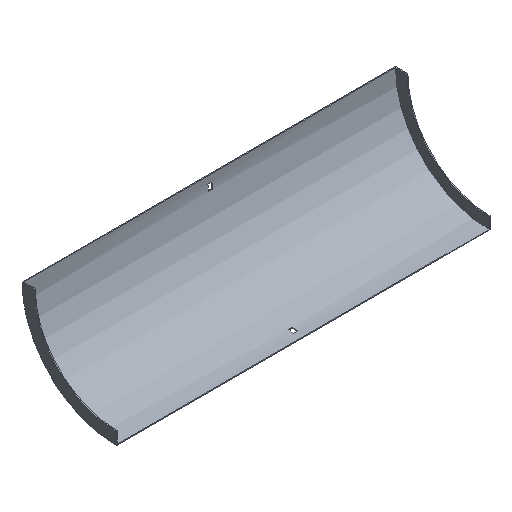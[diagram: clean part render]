
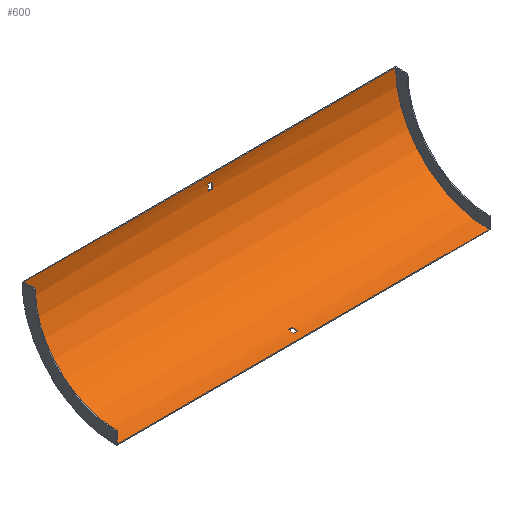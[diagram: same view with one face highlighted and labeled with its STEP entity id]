
A CAD part, isometric view. The second image highlights one B-rep face of the part: STEP entity #600.
In plain terms, the highlighted cylindrical face has radius 152 mm (diameter 304 mm), a partial arc.
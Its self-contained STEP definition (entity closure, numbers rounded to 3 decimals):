
#7 = AXIS2_PLACEMENT_3D ( 'NONE', #99, #285, #472 ) ;
#9 = CARTESIAN_POINT ( 'NONE',  ( -3.25, -141.5, -151.526 ) ) ;
#12 = CARTESIAN_POINT ( 'NONE',  ( 303.5, -141.5, -151.526 ) ) ;
#14 = VERTEX_POINT ( 'NONE', #495 ) ;
#22 = DIRECTION ( 'NONE',  ( 0., 0., 1. ) ) ;
#29 = VERTEX_POINT ( 'NONE', #108 ) ;
#34 = CARTESIAN_POINT ( 'NONE',  ( 303.5, -1.974, -12. ) ) ;
#44 = DIRECTION ( 'NONE',  ( 1., 0., 0. ) ) ;
#70 = CARTESIAN_POINT ( 'NONE',  ( 303.5, -2.958, -21. ) ) ;
#76 = FACE_BOUND ( 'NONE', #407, .T. ) ;
#79 = VERTEX_POINT ( 'NONE', #119 ) ;
#80 = FACE_BOUND ( 'NONE', #201, .T. ) ;
#85 = VERTEX_POINT ( 'NONE', #115 ) ;
#88 = LINE ( 'NONE', #557, #193 ) ;
#90 = LINE ( 'NONE', #34, #593 ) ;
#99 = CARTESIAN_POINT ( 'NONE',  ( -302., -153.5, 0. ) ) ;
#100 = VERTEX_POINT ( 'NONE', #255 ) ;
#102 = CARTESIAN_POINT ( 'NONE',  ( 302., -153.5, -152. ) ) ;
#108 = CARTESIAN_POINT ( 'NONE',  ( 302., -153.5, -152. ) ) ;
#109 = DIRECTION ( 'NONE',  ( 0., 0., 1. ) ) ;
#115 = CARTESIAN_POINT ( 'NONE',  ( -3.25, -132.5, -150.542 ) ) ;
#119 = CARTESIAN_POINT ( 'NONE',  ( 302., -1.5, 0. ) ) ;
#121 = VERTEX_POINT ( 'NONE', #167 ) ;
#126 = FACE_OUTER_BOUND ( 'NONE', #508, .T. ) ;
#130 = ORIENTED_EDGE ( 'NONE', *, *, #272, .F. ) ;
#136 = EDGE_CURVE ( 'NONE', #100, #249, #348, .T. ) ;
#140 = CIRCLE ( 'NONE', #218, 152. ) ;
#146 = AXIS2_PLACEMENT_3D ( 'NONE', #363, #322, #188 ) ;
#147 = VERTEX_POINT ( 'NONE', #423 ) ;
#150 = DIRECTION ( 'NONE',  ( 1., 0., 0. ) ) ;
#164 = EDGE_CURVE ( 'NONE', #29, #14, #243, .T. ) ;
#167 = CARTESIAN_POINT ( 'NONE',  ( -302., -1.5, 0. ) ) ;
#171 = ORIENTED_EDGE ( 'NONE', *, *, #428, .T. ) ;
#176 = ORIENTED_EDGE ( 'NONE', *, *, #205, .T. ) ;
#188 = DIRECTION ( 'NONE',  ( 0., 0., -1. ) ) ;
#190 = AXIS2_PLACEMENT_3D ( 'NONE', #599, #44, #603 ) ;
#193 = VECTOR ( 'NONE', #460, 1000. ) ;
#201 = EDGE_LOOP ( 'NONE', ( #271, #286, #171, #516 ) ) ;
#205 = EDGE_CURVE ( 'NONE', #29, #79, #140, .T. ) ;
#217 = ORIENTED_EDGE ( 'NONE', *, *, #420, .F. ) ;
#218 = AXIS2_PLACEMENT_3D ( 'NONE', #241, #150, #109 ) ;
#222 = VECTOR ( 'NONE', #355, 1000. ) ;
#241 = CARTESIAN_POINT ( 'NONE',  ( 302., -153.5, 0. ) ) ;
#243 = LINE ( 'NONE', #102, #477 ) ;
#245 = VERTEX_POINT ( 'NONE', #564 ) ;
#249 = VERTEX_POINT ( 'NONE', #9 ) ;
#255 = CARTESIAN_POINT ( 'NONE',  ( 3.25, -141.5, -151.526 ) ) ;
#264 = CARTESIAN_POINT ( 'NONE',  ( 3.25, -132.5, -150.542 ) ) ;
#270 = ORIENTED_EDGE ( 'NONE', *, *, #504, .T. ) ;
#271 = ORIENTED_EDGE ( 'NONE', *, *, #136, .T. ) ;
#272 = EDGE_CURVE ( 'NONE', #14, #121, #330, .T. ) ;
#285 = DIRECTION ( 'NONE',  ( 1., 0., 0. ) ) ;
#286 = ORIENTED_EDGE ( 'NONE', *, *, #525, .T. ) ;
#287 = DIRECTION ( 'NONE',  ( -1., 0., 0. ) ) ;
#296 = ORIENTED_EDGE ( 'NONE', *, *, #448, .F. ) ;
#299 = ORIENTED_EDGE ( 'NONE', *, *, #367, .F. ) ;
#301 = EDGE_CURVE ( 'NONE', #329, #100, #393, .T. ) ;
#304 = DIRECTION ( 'NONE',  ( 0., 0., 1. ) ) ;
#311 = DIRECTION ( 'NONE',  ( -1., 0., 0. ) ) ;
#313 = DIRECTION ( 'NONE',  ( -1., 0., 0. ) ) ;
#318 = CIRCLE ( 'NONE', #190, 152. ) ;
#322 = DIRECTION ( 'NONE',  ( 1., 0., 0. ) ) ;
#327 = VECTOR ( 'NONE', #466, 1000. ) ;
#329 = VERTEX_POINT ( 'NONE', #264 ) ;
#330 = CIRCLE ( 'NONE', #7, 152. ) ;
#348 = LINE ( 'NONE', #12, #222 ) ;
#352 = CARTESIAN_POINT ( 'NONE',  ( 3.25, -153.5, 0. ) ) ;
#355 = DIRECTION ( 'NONE',  ( -1., 0., 0. ) ) ;
#362 = DIRECTION ( 'NONE',  ( -1., 0., 0. ) ) ;
#363 = CARTESIAN_POINT ( 'NONE',  ( -3.25, -153.5, 0. ) ) ;
#367 = EDGE_CURVE ( 'NONE', #532, #147, #491, .T. ) ;
#375 = DIRECTION ( 'NONE',  ( 0., 0., 1. ) ) ;
#377 = VECTOR ( 'NONE', #403, 1000. ) ;
#378 = CIRCLE ( 'NONE', #559, 152. ) ;
#393 = CIRCLE ( 'NONE', #462, 152. ) ;
#403 = DIRECTION ( 'NONE',  ( 1., 0., 0. ) ) ;
#407 = EDGE_LOOP ( 'NONE', ( #217, #461, #296, #299 ) ) ;
#420 = EDGE_CURVE ( 'NONE', #245, #532, #378, .T. ) ;
#422 = LINE ( 'NONE', #606, #327 ) ;
#423 = CARTESIAN_POINT ( 'NONE',  ( 3.25, -2.958, -21. ) ) ;
#428 = EDGE_CURVE ( 'NONE', #85, #329, #88, .T. ) ;
#439 = ORIENTED_EDGE ( 'NONE', *, *, #164, .F. ) ;
#448 = EDGE_CURVE ( 'NONE', #147, #571, #318, .T. ) ;
#460 = DIRECTION ( 'NONE',  ( 1., 0., 0. ) ) ;
#461 = ORIENTED_EDGE ( 'NONE', *, *, #552, .F. ) ;
#462 = AXIS2_PLACEMENT_3D ( 'NONE', #352, #311, #304 ) ;
#466 = DIRECTION ( 'NONE',  ( -1., 0., 0. ) ) ;
#472 = DIRECTION ( 'NONE',  ( 0., 0., 1. ) ) ;
#474 = CIRCLE ( 'NONE', #146, 152. ) ;
#477 = VECTOR ( 'NONE', #287, 1000. ) ;
#491 = LINE ( 'NONE', #70, #377 ) ;
#493 = CYLINDRICAL_SURFACE ( 'NONE', #529, 152. ) ;
#495 = CARTESIAN_POINT ( 'NONE',  ( -302., -153.5, -152. ) ) ;
#504 = EDGE_CURVE ( 'NONE', #79, #121, #422, .T. ) ;
#505 = CARTESIAN_POINT ( 'NONE',  ( -3.25, -2.958, -21. ) ) ;
#508 = EDGE_LOOP ( 'NONE', ( #130, #439, #176, #270 ) ) ;
#516 = ORIENTED_EDGE ( 'NONE', *, *, #301, .T. ) ;
#525 = EDGE_CURVE ( 'NONE', #249, #85, #474, .T. ) ;
#529 = AXIS2_PLACEMENT_3D ( 'NONE', #541, #595, #22 ) ;
#532 = VERTEX_POINT ( 'NONE', #505 ) ;
#541 = CARTESIAN_POINT ( 'NONE',  ( 303.5, -153.5, 0. ) ) ;
#552 = EDGE_CURVE ( 'NONE', #571, #245, #90, .T. ) ;
#557 = CARTESIAN_POINT ( 'NONE',  ( 303.5, -132.5, -150.542 ) ) ;
#559 = AXIS2_PLACEMENT_3D ( 'NONE', #605, #313, #375 ) ;
#564 = CARTESIAN_POINT ( 'NONE',  ( -3.25, -1.974, -12. ) ) ;
#571 = VERTEX_POINT ( 'NONE', #602 ) ;
#593 = VECTOR ( 'NONE', #362, 1000. ) ;
#595 = DIRECTION ( 'NONE',  ( -1., 0., 0. ) ) ;
#599 = CARTESIAN_POINT ( 'NONE',  ( 3.25, -153.5, 0. ) ) ;
#600 = ADVANCED_FACE ( 'NONE', ( #76, #126, #80 ), #493, .F. ) ;
#602 = CARTESIAN_POINT ( 'NONE',  ( 3.25, -1.974, -12. ) ) ;
#603 = DIRECTION ( 'NONE',  ( 0., 0., -1. ) ) ;
#605 = CARTESIAN_POINT ( 'NONE',  ( -3.25, -153.5, 0. ) ) ;
#606 = CARTESIAN_POINT ( 'NONE',  ( 302., -1.5, 0. ) ) ;
